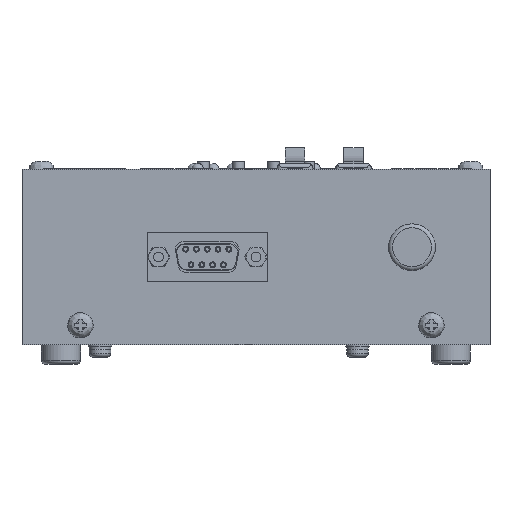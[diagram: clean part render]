
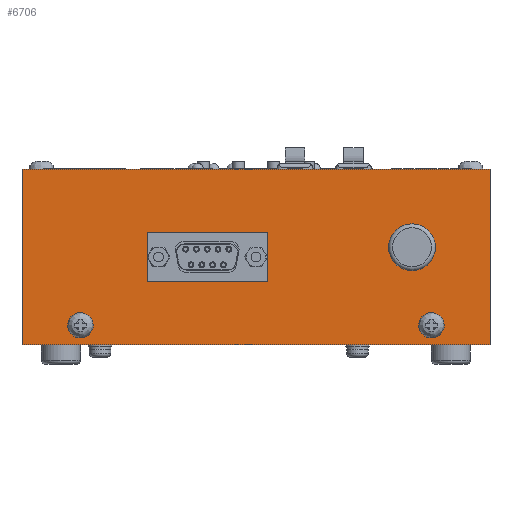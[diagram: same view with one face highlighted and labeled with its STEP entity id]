
A CAD part, front view. The second image highlights one B-rep face of the part: STEP entity #6706.
In plain terms, the highlighted planar face has unit normal (0, -1, 0).
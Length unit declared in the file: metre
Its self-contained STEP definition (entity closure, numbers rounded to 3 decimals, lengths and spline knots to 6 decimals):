
#6706=ADVANCED_FACE('0:873',(#18390,#18391),#18392,.T.);
#18390=FACE_OUTER_BOUND('',#35677,.T.);
#18391=FACE_BOUND('',#35678,.T.);
#18392=PLANE('',#35679);
#35677=EDGE_LOOP('',(#59337,#59338,#59339,#59340));
#35678=EDGE_LOOP('',(#59341,#59342,#59343,#59344));
#35679=AXIS2_PLACEMENT_3D('',#59345,#59346,#59347);
#59337=ORIENTED_EDGE('',*,*,#109365,.T.);
#59338=ORIENTED_EDGE('',*,*,#109418,.F.);
#59339=ORIENTED_EDGE('',*,*,#109415,.T.);
#59340=ORIENTED_EDGE('',*,*,#109420,.T.);
#59341=ORIENTED_EDGE('',*,*,#109421,.T.);
#59342=ORIENTED_EDGE('',*,*,#109422,.T.);
#59343=ORIENTED_EDGE('',*,*,#109423,.T.);
#59344=ORIENTED_EDGE('',*,*,#109424,.T.);
#59345=CARTESIAN_POINT('',(0.06,0.0,0.0));
#59346=DIRECTION('',(0.0,-1.0,0.0));
#59347=DIRECTION('',(1.0,0.0,0.));
#109365=EDGE_CURVE('0:906',#129757,#129755,#129758,.T.);
#109415=EDGE_CURVE('0:912',#129839,#129843,#129845,.T.);
#109418=EDGE_CURVE('0:909',#129839,#129755,#129848,.T.);
#109420=EDGE_CURVE('0:900',#129843,#129757,#129850,.T.);
#109421=EDGE_CURVE('3:2043',#129851,#129852,#129853,.T.);
#109422=EDGE_CURVE('3:2070',#129852,#129854,#129855,.T.);
#109423=EDGE_CURVE('3:2064',#129854,#129856,#129857,.T.);
#109424=EDGE_CURVE('3:2055',#129856,#129851,#129858,.T.);
#129755=VERTEX_POINT('',#159793);
#129757=VERTEX_POINT('',#159796);
#129758=LINE('',#159797,#159798);
#129839=VERTEX_POINT('',#159899);
#129843=VERTEX_POINT('',#159905);
#129845=LINE('',#159908,#159909);
#129848=LINE('',#159913,#159914);
#129850=LINE('',#159916,#159917);
#129851=VERTEX_POINT('',#159918);
#129852=VERTEX_POINT('',#159919);
#129853=LINE('',#159920,#159921);
#129854=VERTEX_POINT('',#159922);
#129855=LINE('',#159923,#159924);
#129856=VERTEX_POINT('',#159925);
#129857=LINE('',#159926,#159927);
#129858=LINE('',#159928,#159929);
#159793=CARTESIAN_POINT('',(0.0,0.0,0.045));
#159796=CARTESIAN_POINT('',(0.12,0.0,0.045));
#159797=CARTESIAN_POINT('',(0.0,0.0,0.045));
#159798=VECTOR('',#206364,1.0);
#159899=CARTESIAN_POINT('',(0.0,0.0,0.0));
#159905=CARTESIAN_POINT('',(0.12,0.0,0.0));
#159908=CARTESIAN_POINT('',(0.0,0.0,0.0));
#159909=VECTOR('',#206439,1.0);
#159913=CARTESIAN_POINT('',(0.0,0.0,0.0));
#159914=VECTOR('',#206441,1.0);
#159916=CARTESIAN_POINT('',(0.12,0.0,0.0));
#159917=VECTOR('',#206442,1.0);
#159918=CARTESIAN_POINT('',(0.0375,0.0,0.0285));
#159919=CARTESIAN_POINT('',(0.0575,0.0,0.0285));
#159920=CARTESIAN_POINT('',(0.05375,0.0,0.0285));
#159921=VECTOR('',#206443,1.0);
#159922=CARTESIAN_POINT('',(0.0575,0.0,0.0165));
#159923=CARTESIAN_POINT('',(0.0575,0.0,0.01125));
#159924=VECTOR('',#206444,1.0);
#159925=CARTESIAN_POINT('',(0.0375,0.0,0.0165));
#159926=CARTESIAN_POINT('',(0.05375,0.0,0.0165));
#159927=VECTOR('',#206445,1.0);
#159928=CARTESIAN_POINT('',(0.0375,0.0,0.01125));
#159929=VECTOR('',#206446,1.0);
#206364=DIRECTION('',(-1.0,-0.0,-0.0));
#206439=DIRECTION('',(1.0,0.0,0.0));
#206441=DIRECTION('',(0.0,0.0,1.0));
#206442=DIRECTION('',(0.0,0.0,1.0));
#206443=DIRECTION('',(1.0,0.0,0.0));
#206444=DIRECTION('',(0.0,0.0,-1.0));
#206445=DIRECTION('',(-1.0,0.0,0.0));
#206446=DIRECTION('',(0.0,0.0,1.0));
